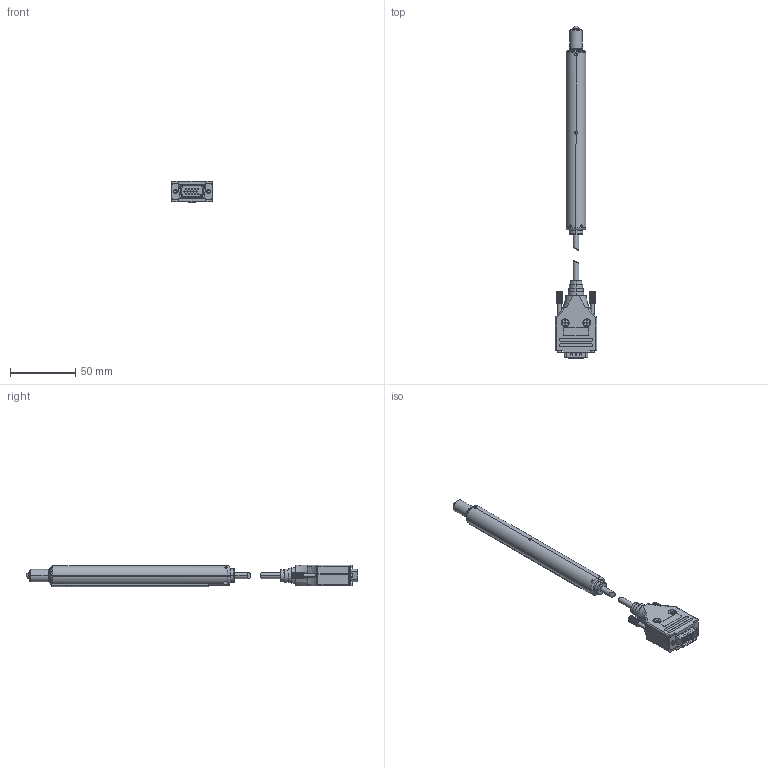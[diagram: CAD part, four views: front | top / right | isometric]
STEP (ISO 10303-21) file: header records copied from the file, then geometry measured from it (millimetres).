
FILE_DESCRIPTION (( 'STEP AP214' ), '1' );
FILE_NAME ('MS-25-B (Motorized Actuator) (CATALOG MODEL).STEP', '2026-01-13T20:45:55', ( '' ), ( '' ), 'SwSTEP 2.0', 'SolidWorks 2025', '' );
FILE_SCHEMA (( 'AUTOMOTIVE_DESIGN' ));
Length unit declared in the file: inch
Products named in the file (1): MS-25-B (Motorized Actuator) (CATALOG MODEL)
Bounding box: 31.76 x 254.16 x 16.47 mm (x, y, z)
Volume: 25782.4 mm3; surface area: 43716.6 mm2
Topology: 35 solids, 35 shells, 2354 faces, 6364 edges, 4100 vertices
Faces by surface type: plane 1138, cylinder 802, cone 216, bspline 153, torus 40, sphere 5
Entity records: 108411 total; most frequent: CARTESIAN_POINT 25489, ORIENTED_EDGE 12584, DIRECTION 11274, EDGE_CURVE 6292, VERTEX_POINT 4099, AXIS2_PLACEMENT_3D 3981, LINE 3312, VECTOR 3312
